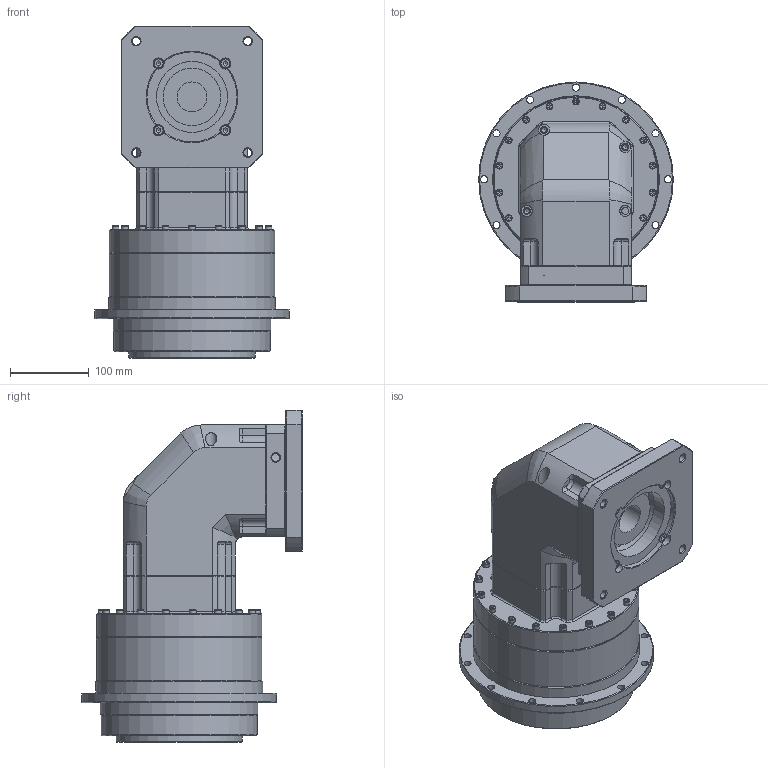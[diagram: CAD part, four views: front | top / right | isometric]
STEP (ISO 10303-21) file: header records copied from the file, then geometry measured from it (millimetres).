
FILE_DESCRIPTION((''),'2;1');
FILE_NAME('D:\유성\유성\도면\3D\2. 홈페이지용 3D 도면 (ipt)\외부도\SPLFH180\SPLFH180D SERIES (2 STAGE).stp','2014-05-08T11:17:48',('nagyu'),(''),'Autodesk Inventor 2013','Autodesk Inventor 2013','');
FILE_SCHEMA(('AUTOMOTIVE_DESIGN { 1 0 10303 214 1 1 1 1 }'));
Length unit declared in the file: millimetre
Products named in the file (1): SPLFH180D SERIES (2 STAGE)_Shrinkwrap_1
Bounding box: 247 x 279.5 x 421.3 mm (x, y, z)
Volume: 9772683.8 mm3; surface area: 591562.7 mm2
Topology: 1 solids, 55 shells, 865 faces, 1976 edges, 1262 vertices
Faces by surface type: plane 382, cylinder 265, cone 148, torus 66, bspline 4
Full cylindrical faces by diameter (mm): 4.134 x18, 5 x18, 5.5 x18, 6.647 x12, 8 x4, 8.376 x10, 8.5 x18, 8.7 x8, 9 x16, 10 x1, 10.106 x5, 13 x4, 14 x12, 15 x1, 16 x10, 19 x1, 19.1 x1, 38 x1, 44.8 x1, 73 x1, 80 x2, 90 x3, 100 x3, 103 x1, 110 x1, 120 x2, 125 x1, 130 x1, 130.2 x1, 131 x1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
Entity records: 22146 total; most frequent: CARTESIAN_POINT 4745, DIRECTION 3569, ORIENTED_EDGE 2912, AXIS2_PLACEMENT_3D 1516, EDGE_CURVE 1456, EDGE_LOOP 1340, VERTEX_POINT 1090, FACE_OUTER_BOUND 865
